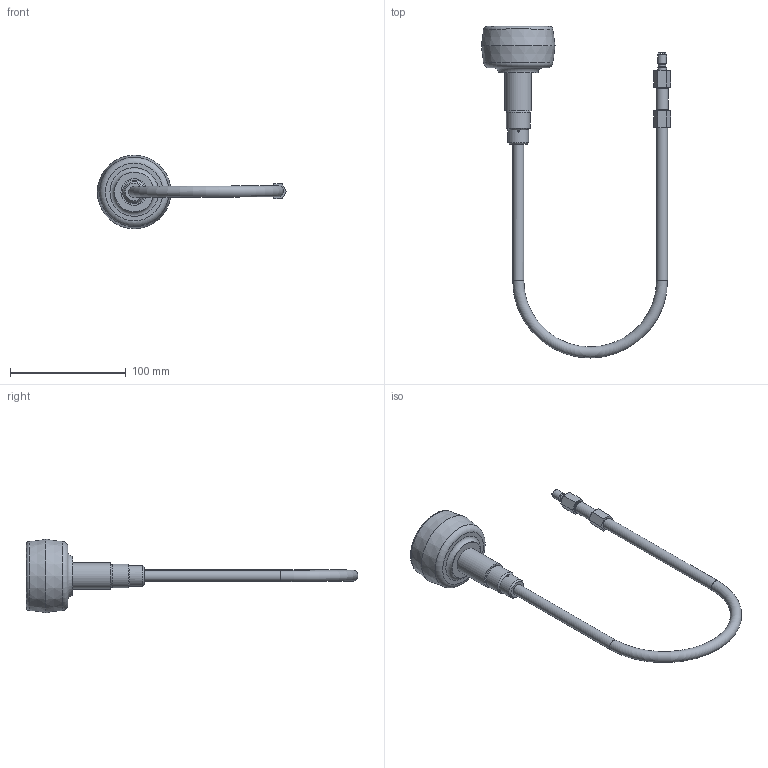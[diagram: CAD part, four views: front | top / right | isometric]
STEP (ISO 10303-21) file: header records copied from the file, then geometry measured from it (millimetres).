
FILE_DESCRIPTION(/* description */ (''),/* implementation_level */ '2;1');
FILE_NAME(/* name */ 'C:\Vault Local\Designs\CAD\Manufacturing\ECS Products\PHGA-1 Handheld Gas Analyzer\Export\PHGA-1.stp',/* time_stamp */ '2020-12-02T13:19:16-06:00',/* author */ ('myoung'),/* organization */ (''),/* preprocessor_version */ 'ST-DEVELOPER v18.1',/* originating_system */ 'Autodesk Inventor 2020',/* authorisation */ '');
FILE_SCHEMA (('CONFIG_CONTROL_DESIGN'));
Length unit declared in the file: inch
Products named in the file (1): PHGA-1_Shrinkwrap_1
Bounding box: 163.11 x 286.21 x 63.5 mm (x, y, z)
Volume: 155288.7 mm3; surface area: 42919.7 mm2
Topology: 3 solids, 3 shells, 117 faces, 336 edges, 230 vertices
Faces by surface type: plane 51, cone 32, cylinder 21, torus 7, bspline 6
Full cylindrical faces by diameter (mm): 1.905 x1, 3.429 x2, 5.715 x2, 6.299 x1, 6.833 x1, 7.62 x2, 9.525 x2, 10.287 x1, 10.871 x2, 17.78 x1, 20.32 x1, 22.86 x1, 34.29 x1, 52.324 x1
Entity records: 15885 total; most frequent: CARTESIAN_POINT 12604, ORIENTED_EDGE 672, DIRECTION 609, EDGE_CURVE 336, AXIS2_PLACEMENT_3D 233, VERTEX_POINT 230, LINE 143, VECTOR 143
